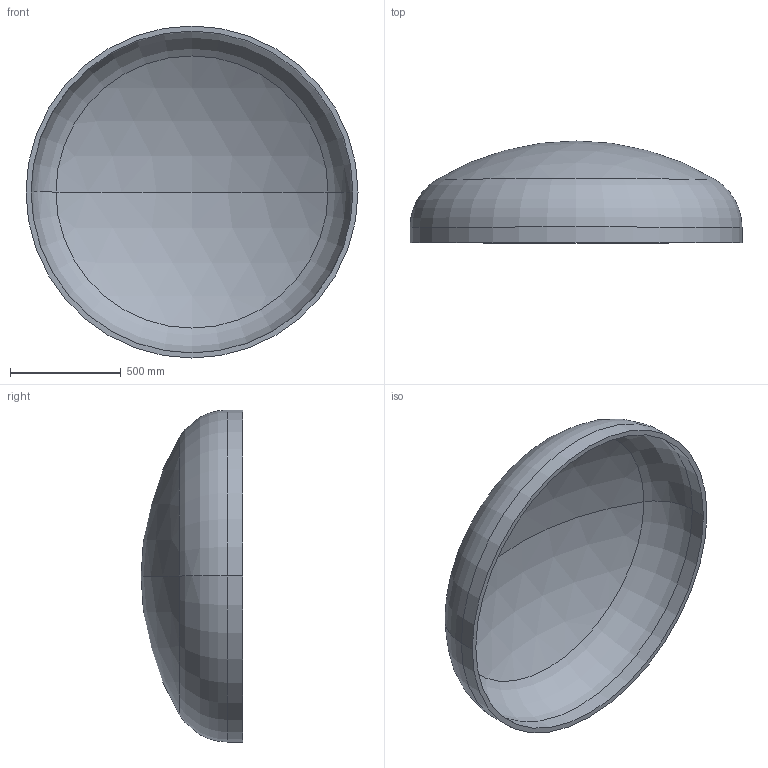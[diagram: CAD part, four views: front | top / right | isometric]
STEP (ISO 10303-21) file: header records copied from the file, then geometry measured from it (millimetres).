
FILE_DESCRIPTION (( 'STEP AP203' ), '1' );
FILE_NAME ('DIN 28013 Korbbogenform_-_Boden DIN 28013 - 1500 x 70 - I - s=23.step', '2016-07-01T10:39:43', ( '' ), ( '' ), 'SwSTEP 2.0', 'SolidWorks 2013', '' );
FILE_SCHEMA (( 'CONFIG_CONTROL_DESIGN' ));
Length unit declared in the file: millimetre
Products named in the file (1): DIN 28013 Korbbogenform_-_Boden DIN 28013 - 1500 x 70 - I - s=23
Bounding box: 1500 x 460 x 1500 mm (x, y, z)
Volume: 62587112.5 mm3; surface area: 5550186.7 mm2
Topology: 1 solids, 1 shells, 13 faces, 24 edges, 14 vertices
Faces by surface type: torus 4, cylinder 4, sphere 4, plane 1
Entity records: 407 total; most frequent: DIRECTION 72, CARTESIAN_POINT 52, ORIENTED_EDGE 48, AXIS2_PLACEMENT_3D 34, EDGE_CURVE 24, CIRCLE 20, VERTEX_POINT 14, EDGE_LOOP 14
